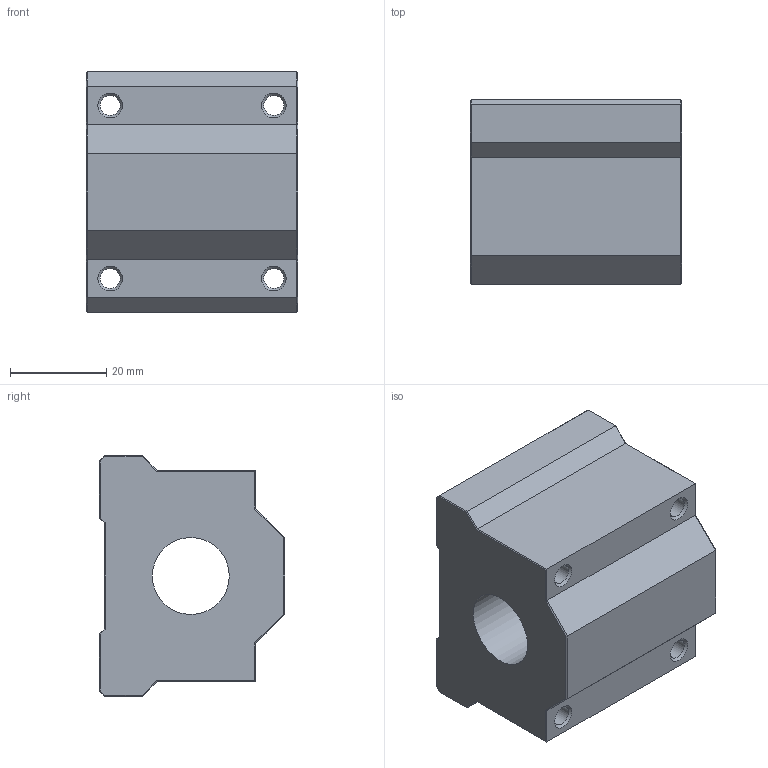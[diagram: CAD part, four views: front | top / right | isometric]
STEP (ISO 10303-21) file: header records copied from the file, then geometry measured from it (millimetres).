
FILE_DESCRIPTION(/* description */ (''),/* implementation_level */ '2;1');
FILE_NAME(/* name */ 'C:\Users\David\ownCloud\Kamp und Kötter\Artikel\Wellenführung D16\Linearwagen.stp',/* time_stamp */ '2018-03-20T19:23:42+01:00',/* author */ ('David'),/* organization */ (''),/* preprocessor_version */ 'ST-DEVELOPER v16.5',/* originating_system */ 'Autodesk Inventor 2017',/* authorisation */ '');
FILE_SCHEMA (('AUTOMOTIVE_DESIGN { 1 0 10303 214 3 1 1 }'));
Length unit declared in the file: millimetre
Products named in the file (1): Linearwagen
Bounding box: 44 x 38.5 x 50 mm (x, y, z)
Volume: 59831.7 mm3; surface area: 13834.6 mm2
Topology: 1 solids, 1 shells, 69 faces, 161 edges, 94 vertices
Faces by surface type: plane 56, cone 8, cylinder 5
Full cylindrical faces by diameter (mm): 4.134 x4, 16 x1
Entity records: 1836 total; most frequent: CARTESIAN_POINT 304, DIRECTION 302, ORIENTED_EDGE 288, EDGE_CURVE 144, LINE 126, VECTOR 126, EDGE_LOOP 92, VERTEX_POINT 90
